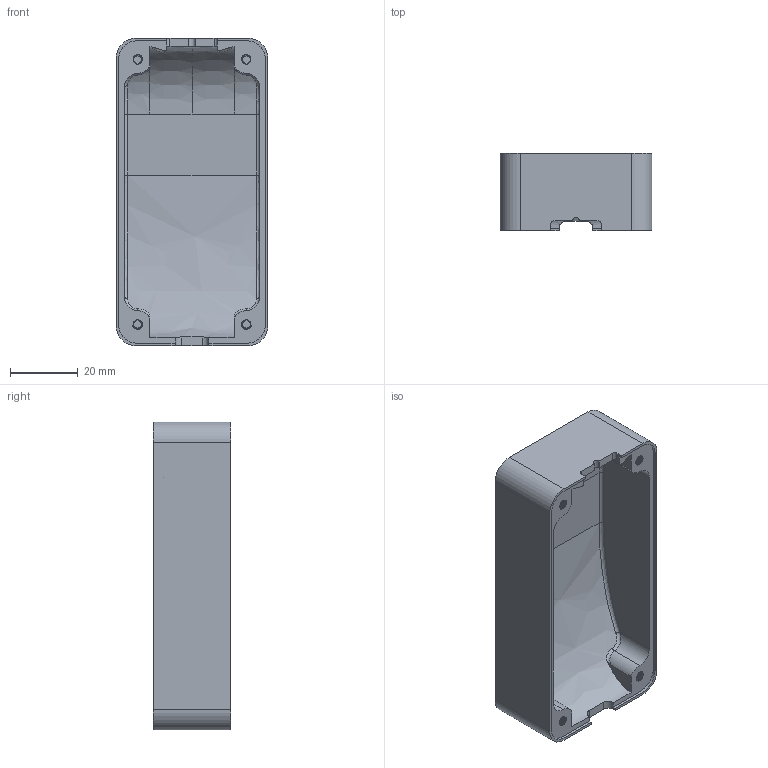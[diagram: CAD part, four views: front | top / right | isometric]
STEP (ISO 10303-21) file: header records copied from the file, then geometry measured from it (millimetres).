
FILE_DESCRIPTION(/* description */ (''),/* implementation_level */ '2;1');
FILE_NAME(/* name */ 'HEATER 1 FAN BACK SHELL.step',/* time_stamp */ '2024-02-28T16:57:35Z',/* author */ (''),/* organization */ (''),/* preprocessor_version */ 'ST-DEVELOPER v20',/* originating_system */ 'Autodesk Translation Framework v12.20.1.177',/* authorisation */ '');
FILE_SCHEMA (('AUTOMOTIVE_DESIGN { 1 0 10303 214 3 1 1 }'));
Length unit declared in the file: millimetre
Products named in the file (1): HEATER 1 FAN BACK SHELL
Bounding box: 44.8 x 22.8 x 90.8 mm (x, y, z)
Volume: 33130.2 mm3; surface area: 18892 mm2
Topology: 1 solids, 1 shells, 417 faces, 1216 edges, 805 vertices
Faces by surface type: cylinder 353, plane 35, bspline 29
Full cylindrical faces by diameter (mm): 2.529 x80, 3.086 x44
Entity records: 32517 total; most frequent: CARTESIAN_POINT 22935, ORIENTED_EDGE 2432, DIRECTION 1322, EDGE_CURVE 1216, VERTEX_POINT 805, B_SPLINE_CURVE_WITH_KNOTS 733, AXIS2_PLACEMENT_3D 450, LINE 422
